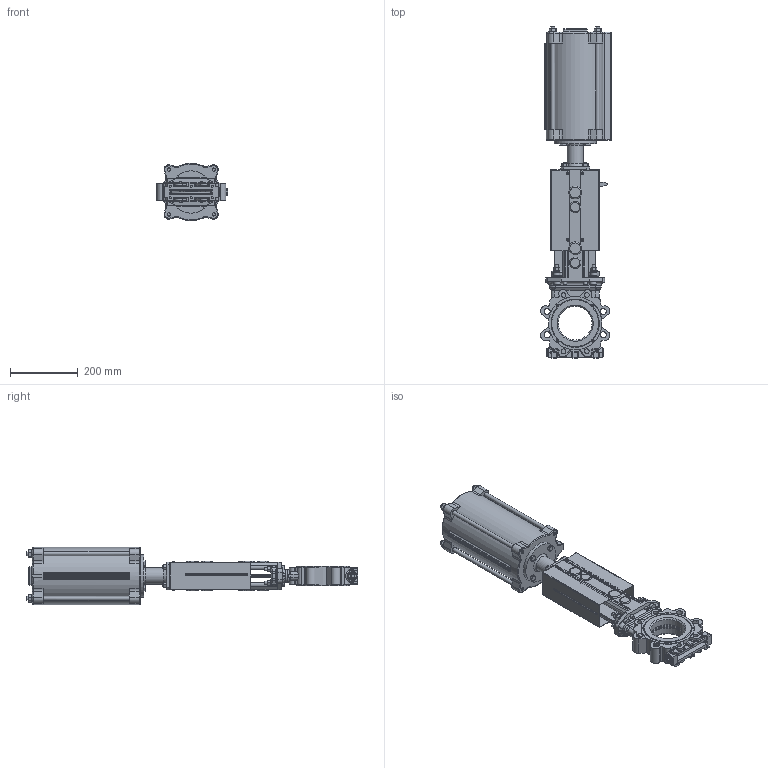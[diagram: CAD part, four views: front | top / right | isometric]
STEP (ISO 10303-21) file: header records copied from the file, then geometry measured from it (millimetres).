
FILE_DESCRIPTION(/* description */ (''),/* implementation_level */ '2;1');
FILE_NAME(/* name */ 'F:\Emir\3D-block special\SLV\SLV-DN100-PN10-FRSC160-165.stp',/* time_stamp */ '2018-08-31T11:19:04+02:00',/* author */ ('emimus'),/* organization */ (''),/* preprocessor_version */ 'ST-DEVELOPER v17',/* originating_system */ 'Autodesk Inventor 2018',/* authorisation */ '');
FILE_SCHEMA (('CONFIG_CONTROL_DESIGN'));
Products named in the file (1): SLV-DN100-PN10-FRSC160-165
Bounding box: 210.25 x 982.5 x 170 mm (x, y, z)
Volume: 4694558 mm3; surface area: 1459619.2 mm2
Topology: 2 solids, 2 shells, 2482 faces, 6436 edges, 4039 vertices
Faces by surface type: plane 964, cylinder 668, cone 280, bspline 265, torus 221, sphere 84
Full cylindrical faces by diameter (mm): 4 x6, 4.134 x12, 4.2 x16, 4.5 x4, 6 x1, 6.4 x1, 6.75 x6, 7 x1, 8 x2, 8.376 x2, 8.88 x1, 9 x2, 9.5 x4, 10 x43, 10.5 x8, 11 x8, 11.445 x2, 12 x13, 13 x7, 14 x8, 14.63 x4, 15 x4, 16 x2, 17.7 x1, 18 x4, 19 x4, 20 x12, 20.5 x1, 20.95 x2, 23 x4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
Entity records: 98562 total; most frequent: CARTESIAN_POINT 38716, DIRECTION 12729, ORIENTED_EDGE 12726, EDGE_CURVE 6363, AXIS2_PLACEMENT_3D 5254, VERTEX_POINT 4039, EDGE_LOOP 2764, CIRCLE 2753
